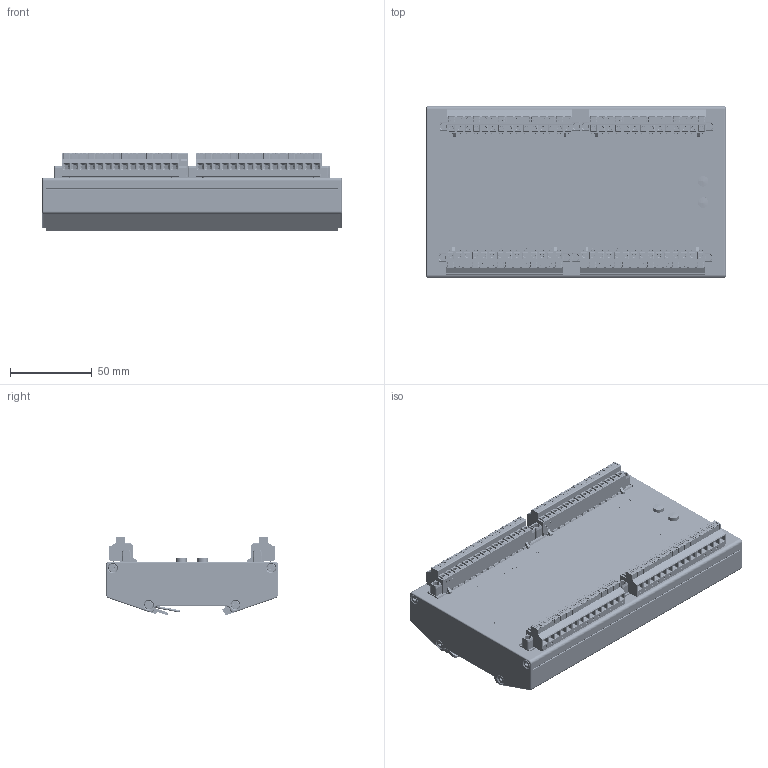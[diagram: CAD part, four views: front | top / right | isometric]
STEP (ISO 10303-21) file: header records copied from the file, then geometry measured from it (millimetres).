
FILE_DESCRIPTION(('FreeCAD Model'),'2;1');
FILE_NAME('Open CASCADE Shape Model','2026-02-10T13:13:11',(''),(''), 'Open CASCADE STEP processor 7.8','FreeCAD','Unknown');
FILE_SCHEMA(('AUTOMOTIVE_DESIGN { 1 0 10303 214 1 1 1 1 }'));
Length unit declared in the file: millimetre
Products named in the file (363): Model; LCS_Origin; Part-SDU-420-top; Body-SDU-420-topp; LCS_Part-SDU-420-top; LCS_Part-SDU-420-top_power_led; LCS_Part-SDU-420-top-left-side; LCS_Part-SDU-420-top-hole-right-left; LCS_Part-SDU-420-top_led_2; LCS_Part-SDU-420-top_led_3; LCS_Part-SDU-420-top_led_4; LCS_Part-SDU-420-top_led_5; LCS_Part-SDU-420-top_led_6; LCS_Part-SDU-420-top_led_7; LCS_Part-SDU-420-top_led_8; LCS_Part-SDU-420-top_led_9; LCS_Part-SDU-420-top_led_10; LCS_Part-SDU-420-top_led_12; LCS_Part-SDU-420-top_led_13; LCS_Part-SDU-420-top_led_14; LCS_Part-SDU-420-top_led_15; LCS_Part-SDU-420-top_led_16; LCS_Part-SDU-420-top_led_17; LCS_Part-SDU-420-top_led_18; LCS_Part-SDU-420-top_led_19; LCS_Part-SDU-420-top_led_20; LCS_Part-SDU-420-top_led_21; LCS_Part-SDU-420-top_led_22; LCS_Part-SDU-420-top_led_23; LCS_Part-SDU-420-top_led_24; LCS_Part-SDU-420-top_led_25; LCS_Part-SDU-420-top_led_26; Part-SDU-420-bottom; Body-SDU-420-bottom; LCS_Part-SDU-420-bottom-interface-top; LCS_Part-SDU-420-bottom_PCB_interface; LCS_Part-SDU-420-bottom_Spring; Spring; Body; LCS_Spring_Center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
Assembly tree (820 placements, depth 6):
  Model
    LCS_Origin
    Part-SDU-420-top
      Body-SDU-420-topp
      LCS_Part-SDU-420-top
      LCS_Part-SDU-420-top_power_led
      LCS_Part-SDU-420-top-left-side
      LCS_Part-SDU-420-top-hole-right-left
      LCS_Part-SDU-420-top_led_2
      LCS_Part-SDU-420-top_led_3
      LCS_Part-SDU-420-top_led_4
      LCS_Part-SDU-420-top_led_5
      LCS_Part-SDU-420-top_led_6
      LCS_Part-SDU-420-top_led_7
      LCS_Part-SDU-420-top_led_8
      LCS_Part-SDU-420-top_led_9
      LCS_Part-SDU-420-top_led_10
      LCS_Part-SDU-420-top_led_12
      LCS_Part-SDU-420-top_led_13
      LCS_Part-SDU-420-top_led_14
      LCS_Part-SDU-420-top_led_15
      LCS_Part-SDU-420-top_led_16
      LCS_Part-SDU-420-top_led_17
      LCS_Part-SDU-420-top_led_18
      LCS_Part-SDU-420-top_led_19
      LCS_Part-SDU-420-top_led_20
      LCS_Part-SDU-420-top_led_21
      LCS_Part-SDU-420-top_led_22
      LCS_Part-SDU-420-top_led_23
      LCS_Part-SDU-420-top_led_24
      LCS_Part-SDU-420-top_led_25
      LCS_Part-SDU-420-top_led_26
    Part-SDU-420-bottom
      Body-SDU-420-bottom
      LCS_Part-SDU-420-bottom-interface-top
      LCS_Part-SDU-420-bottom_PCB_interface
      LCS_Part-SDU-420-bottom_Spring
    Spring
      Body
      LCS_Spring_Center
    PartSide  x2
      BodySide
      LCS_PartSide_H1
      LCS_PartSide_H2
      LCS_PartSide_H3
      LCS_PartSide_H4
      LCS_top_back_side
    Part
      BSO-M3-14ZI-Penn v1
      LCS_Part_Bolt_Head
      LCS_Bolt_Interface
    Side Screws
      Part  x8
        Body
        LCS_Part_1_topp
    Light Pipes
      Light-pipe  x25
        Body001
        LCS_Light-pipe
    SDU-420-F
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Bounding box: 183 x 105 x 47.64 mm (x, y, z)
Volume: 246090 mm3; surface area: 232984.1 mm2
Topology: 780 solids, 1605 shells, 40974 faces, 106868 edges, 69237 vertices
Faces by surface type: plane 28433, cylinder 7507, bspline 3289, sphere 714, cone 456, torus 435, extrusion 136, revolution 4
Full cylindrical faces by diameter (mm): 0.155 x1, 0.196 x1, 0.199 x7, 0.201 x1, 0.25 x3, 0.357 x3, 0.38 x3, 0.4 x1, 0.434 x4, 0.65 x4, 0.7 x2, 0.85 x4, 0.9 x10, 1 x10, 1.3 x58, 1.4 x60, 1.504 x5, 1.8 x8, 2 x1, 2.4 x2, 2.449 x1, 2.459 x1, 2.5 x16, 2.8 x54, 2.9 x8, 3 x50, 3.1 x25, 3.2 x4, 3.5 x1, 3.78 x1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
Entity records: 492835 total; most frequent: CARTESIAN_POINT 114009, ORIENTED_EDGE 67624, DIRECTION 66300, EDGE_CURVE 34079, VECTOR 24662, LINE 24592, VERTEX_POINT 21646, AXIS2_PLACEMENT_3D 20817
